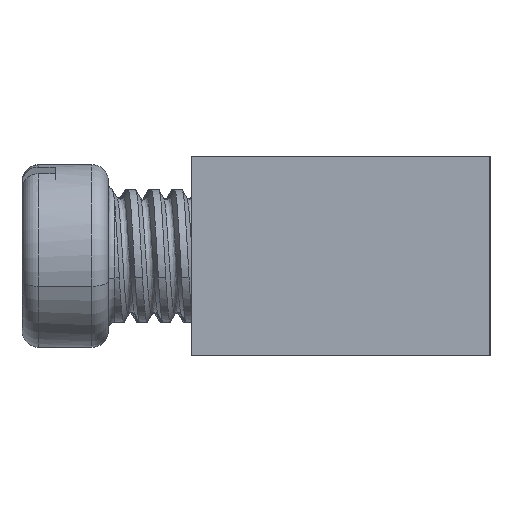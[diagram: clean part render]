
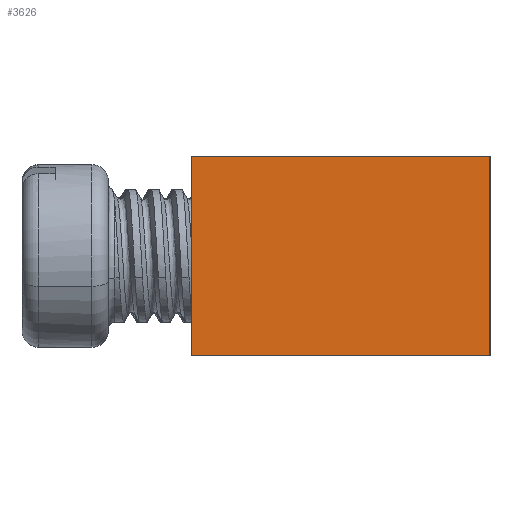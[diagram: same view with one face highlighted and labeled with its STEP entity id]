
A CAD part, left-side view. The second image highlights one B-rep face of the part: STEP entity #3626.
In plain terms, the highlighted planar face has unit normal (-1, 0, 0).
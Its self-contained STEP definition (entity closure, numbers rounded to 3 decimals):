
#126 = DIRECTION ( 'NONE',  ( 0., 0., 1. ) ) ;
#135 = EDGE_LOOP ( 'NONE', ( #8879, #6625, #839, #7096 ) ) ;
#191 = VERTEX_POINT ( 'NONE', #2302 ) ;
#508 = VERTEX_POINT ( 'NONE', #790 ) ;
#790 = CARTESIAN_POINT ( 'NONE',  ( 0., 9., -6. ) ) ;
#839 = ORIENTED_EDGE ( 'NONE', *, *, #1087, .T. ) ;
#1087 = EDGE_CURVE ( 'NONE', #508, #191, #8795, .T. ) ;
#1401 = LINE ( 'NONE', #8282, #7306 ) ;
#1406 = DIRECTION ( 'NONE',  ( -1., 0., 0. ) ) ;
#1434 = VERTEX_POINT ( 'NONE', #7481 ) ;
#1625 = VERTEX_POINT ( 'NONE', #4057 ) ;
#1845 = VECTOR ( 'NONE', #9063, 1000. ) ;
#2102 = PLANE ( 'NONE',  #9101 ) ;
#2302 = CARTESIAN_POINT ( 'NONE',  ( 0., 0., -6. ) ) ;
#3171 = CARTESIAN_POINT ( 'NONE',  ( 0., 0., -6. ) ) ;
#3356 = FACE_OUTER_BOUND ( 'NONE', #135, .T. ) ;
#3626 = ADVANCED_FACE ( 'NONE', ( #3356 ), #2102, .T. ) ;
#4046 = EDGE_CURVE ( 'NONE', #1625, #1434, #1401, .T. ) ;
#4057 = CARTESIAN_POINT ( 'NONE',  ( 0., 9., 0. ) ) ;
#4260 = CARTESIAN_POINT ( 'NONE',  ( 0., 0., -6. ) ) ;
#4370 = EDGE_CURVE ( 'NONE', #191, #1434, #7507, .T. ) ;
#4931 = CARTESIAN_POINT ( 'NONE',  ( 0., 0., -6. ) ) ;
#5106 = VECTOR ( 'NONE', #9125, 1000. ) ;
#5213 = CARTESIAN_POINT ( 'NONE',  ( 0., 9., -6. ) ) ;
#6403 = DIRECTION ( 'NONE',  ( 0., 0., 1. ) ) ;
#6625 = ORIENTED_EDGE ( 'NONE', *, *, #7189, .F. ) ;
#6947 = VECTOR ( 'NONE', #126, 1000. ) ;
#7096 = ORIENTED_EDGE ( 'NONE', *, *, #4370, .T. ) ;
#7189 = EDGE_CURVE ( 'NONE', #508, #1625, #8855, .T. ) ;
#7306 = VECTOR ( 'NONE', #8184, 1000. ) ;
#7481 = CARTESIAN_POINT ( 'NONE',  ( 0., 0., 0. ) ) ;
#7507 = LINE ( 'NONE', #4931, #1845 ) ;
#8184 = DIRECTION ( 'NONE',  ( 0., -1., 0. ) ) ;
#8282 = CARTESIAN_POINT ( 'NONE',  ( 0., 0., 0. ) ) ;
#8795 = LINE ( 'NONE', #3171, #5106 ) ;
#8855 = LINE ( 'NONE', #5213, #6947 ) ;
#8879 = ORIENTED_EDGE ( 'NONE', *, *, #4046, .F. ) ;
#9063 = DIRECTION ( 'NONE',  ( 0., 0., 1. ) ) ;
#9101 = AXIS2_PLACEMENT_3D ( 'NONE', #4260, #1406, #6403 ) ;
#9125 = DIRECTION ( 'NONE',  ( 0., -1., 0. ) ) ;
